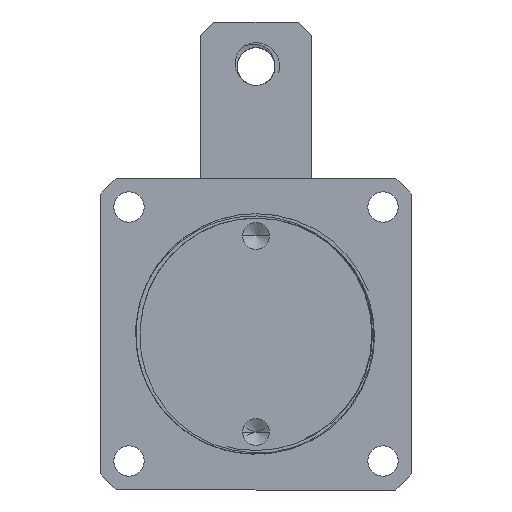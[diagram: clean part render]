
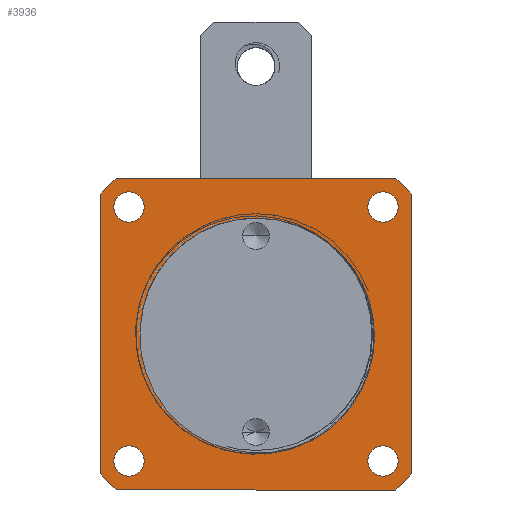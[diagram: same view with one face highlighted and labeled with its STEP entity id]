
A CAD part, left-side view. The second image highlights one B-rep face of the part: STEP entity #3936.
In plain terms, the highlighted planar face has unit normal (-1, 0, 0).
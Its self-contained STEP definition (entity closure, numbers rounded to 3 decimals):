
#2=CARTESIAN_POINT('',(0.,-28.499,-28.502));
#3=DIRECTION('',(-1.,0.,0.));
#4=DIRECTION('',(0.,-1.,0.));
#5=AXIS2_PLACEMENT_3D('',#2,#3,#4);
#7=CARTESIAN_POINT('',(0.,-28.499,-28.502));
#8=DIRECTION('',(-1.,0.,0.));
#9=DIRECTION('',(0.,1.,0.));
#10=AXIS2_PLACEMENT_3D('',#7,#8,#9);
#12=CARTESIAN_POINT('',(0.,-28.499,28.499));
#13=DIRECTION('',(-1.,0.,0.));
#14=DIRECTION('',(0.,-1.,0.));
#15=AXIS2_PLACEMENT_3D('',#12,#13,#14);
#17=CARTESIAN_POINT('',(0.,-28.499,28.499));
#18=DIRECTION('',(-1.,0.,0.));
#19=DIRECTION('',(0.,1.,0.));
#20=AXIS2_PLACEMENT_3D('',#17,#18,#19);
#22=CARTESIAN_POINT('',(0.,28.5,28.499));
#23=DIRECTION('',(-1.,0.,0.));
#24=DIRECTION('',(0.,-1.,0.));
#25=AXIS2_PLACEMENT_3D('',#22,#23,#24);
#27=CARTESIAN_POINT('',(0.,28.5,28.499));
#28=DIRECTION('',(-1.,0.,0.));
#29=DIRECTION('',(0.,1.,0.));
#30=AXIS2_PLACEMENT_3D('',#27,#28,#29);
#32=CARTESIAN_POINT('',(0.,28.5,-28.502));
#33=DIRECTION('',(-1.,0.,0.));
#34=DIRECTION('',(0.,-1.,0.));
#35=AXIS2_PLACEMENT_3D('',#32,#33,#34);
#37=CARTESIAN_POINT('',(0.,28.5,-28.502));
#38=DIRECTION('',(-1.,0.,0.));
#39=DIRECTION('',(0.,1.,0.));
#40=AXIS2_PLACEMENT_3D('',#37,#38,#39);
#42=DIRECTION('',(0.,1.,0.));
#43=VECTOR('',#42,31.366);
#44=CARTESIAN_POINT('',(0.,0.,-35.002));
#45=LINE('',#44,#43);
#46=CARTESIAN_POINT('',(0.,0.,0.));
#47=DIRECTION('',(1.,0.,0.));
#48=DIRECTION('',(0.,0.667,-0.745));
#49=AXIS2_PLACEMENT_3D('',#46,#47,#48);
#51=DIRECTION('',(0.,0.,1.));
#52=VECTOR('',#51,62.738);
#53=CARTESIAN_POINT('',(0.,35.,-31.369));
#54=LINE('',#53,#52);
#55=CARTESIAN_POINT('',(0.,0.,0.));
#56=DIRECTION('',(1.,0.,0.));
#57=DIRECTION('',(0.,0.745,0.667));
#58=AXIS2_PLACEMENT_3D('',#55,#56,#57);
#60=DIRECTION('',(0.,-1.,0.));
#61=VECTOR('',#60,62.74);
#62=CARTESIAN_POINT('',(0.,31.37,34.999));
#63=LINE('',#62,#61);
#64=CARTESIAN_POINT('',(0.,0.,0.));
#65=DIRECTION('',(1.,0.,0.));
#66=DIRECTION('',(0.,-0.667,0.745));
#67=AXIS2_PLACEMENT_3D('',#64,#65,#66);
#69=DIRECTION('',(0.,0.,-1.));
#70=VECTOR('',#69,62.74);
#71=CARTESIAN_POINT('',(0.,-34.999,31.37));
#72=LINE('',#71,#70);
#73=CARTESIAN_POINT('',(0.,0.,0.));
#74=DIRECTION('',(1.,0.,0.));
#75=DIRECTION('',(0.,-0.745,-0.667));
#76=AXIS2_PLACEMENT_3D('',#73,#74,#75);
#78=DIRECTION('',(0.,1.,0.));
#79=VECTOR('',#78,31.366);
#80=CARTESIAN_POINT('',(0.,-31.366,-35.002));
#81=LINE('',#80,#79);
#82=CARTESIAN_POINT('',(0.,-4.797,25.554));
#83=CARTESIAN_POINT('',(0.,-6.119,25.328));
#84=CARTESIAN_POINT('',(0.,-8.697,24.679));
#85=CARTESIAN_POINT('',(0.,-12.422,23.106));
#86=CARTESIAN_POINT('',(0.,-15.849,20.984));
#87=CARTESIAN_POINT('',(0.,-18.919,18.36));
#88=CARTESIAN_POINT('',(0.,-21.563,15.278));
#89=CARTESIAN_POINT('',(0.,-23.699,11.838));
#90=CARTESIAN_POINT('',(0.,-25.293,8.095));
#91=CARTESIAN_POINT('',(0.,-26.296,4.146));
#92=CARTESIAN_POINT('',(0.,-26.685,0.094));
#93=CARTESIAN_POINT('',(0.,-26.45,-4.));
#94=CARTESIAN_POINT('',(0.,-25.595,-7.994));
#95=CARTESIAN_POINT('',(0.,-24.135,-11.832));
#96=CARTESIAN_POINT('',(0.,-22.102,-15.41));
#97=CARTESIAN_POINT('',(0.,-19.552,-18.631));
#98=CARTESIAN_POINT('',(0.,-17.544,-20.499));
#99=CARTESIAN_POINT('',(0.,-16.458,-21.363));
#101=CARTESIAN_POINT('',(0.,-16.458,-21.363));
#102=CARTESIAN_POINT('',(0.,-15.352,-22.188));
#103=CARTESIAN_POINT('',(0.,-13.045,-23.648));
#104=CARTESIAN_POINT('',(0.,-9.261,-25.303));
#105=CARTESIAN_POINT('',(0.,-5.292,-26.352));
#106=CARTESIAN_POINT('',(0.,-1.218,-26.787));
#107=CARTESIAN_POINT('',(0.,2.881,-26.594));
#108=CARTESIAN_POINT('',(0.,6.875,-25.785));
#109=CARTESIAN_POINT('',(0.,10.713,-24.371));
#110=CARTESIAN_POINT('',(0.,14.274,-22.393));
#111=CARTESIAN_POINT('',(0.,17.477,-19.91));
#112=CARTESIAN_POINT('',(0.,20.277,-16.947));
#113=CARTESIAN_POINT('',(0.,22.564,-13.633));
#114=CARTESIAN_POINT('',(0.,24.333,-9.973));
#115=CARTESIAN_POINT('',(0.,25.507,-6.128));
#116=CARTESIAN_POINT('',(0.,26.081,-2.131));
#117=CARTESIAN_POINT('',(0.,26.051,0.537));
#118=CARTESIAN_POINT('',(0.,25.932,1.88));
#1455=CARTESIAN_POINT('',(0.,0.,0.));
#1456=DIRECTION('',(1.,0.,0.));
#1457=DIRECTION('',(0.,0.997,0.072));
#1458=AXIS2_PLACEMENT_3D('',#1455,#1456,#1457);
#3613=CARTESIAN_POINT('',(0.,-31.899,-28.502));
#3614=CARTESIAN_POINT('',(0.,-25.099,-28.502));
#3615=VERTEX_POINT('',#3613);
#3616=VERTEX_POINT('',#3614);
#3617=CARTESIAN_POINT('',(0.,-31.899,28.499));
#3618=CARTESIAN_POINT('',(0.,-25.099,28.499));
#3619=VERTEX_POINT('',#3617);
#3620=VERTEX_POINT('',#3618);
#3621=CARTESIAN_POINT('',(0.,25.1,28.499));
#3622=CARTESIAN_POINT('',(0.,31.9,28.499));
#3623=VERTEX_POINT('',#3621);
#3624=VERTEX_POINT('',#3622);
#3625=CARTESIAN_POINT('',(0.,25.1,-28.502));
#3626=CARTESIAN_POINT('',(0.,31.9,-28.502));
#3627=VERTEX_POINT('',#3625);
#3628=VERTEX_POINT('',#3626);
#3629=CARTESIAN_POINT('',(0.,0.,-35.002));
#3630=CARTESIAN_POINT('',(0.,31.366,-35.002));
#3631=VERTEX_POINT('',#3629);
#3632=VERTEX_POINT('',#3630);
#3633=CARTESIAN_POINT('',(0.,35.,-31.369));
#3634=VERTEX_POINT('',#3633);
#3635=CARTESIAN_POINT('',(0.,35.,31.369));
#3636=VERTEX_POINT('',#3635);
#3637=CARTESIAN_POINT('',(0.,31.37,34.999));
#3638=VERTEX_POINT('',#3637);
#3639=CARTESIAN_POINT('',(0.,-31.37,34.999));
#3640=VERTEX_POINT('',#3639);
#3641=CARTESIAN_POINT('',(0.,-34.999,31.37));
#3642=VERTEX_POINT('',#3641);
#3643=CARTESIAN_POINT('',(0.,-34.999,-31.37));
#3644=VERTEX_POINT('',#3643);
#3645=CARTESIAN_POINT('',(0.,-31.366,-35.002));
#3646=VERTEX_POINT('',#3645);
#3719=VERTEX_POINT('',#82);
#3720=VERTEX_POINT('',#99);
#3721=VERTEX_POINT('',#118);
#3879=CARTESIAN_POINT('',(0.,0.,0.));
#3880=DIRECTION('',(1.,0.,0.));
#3881=DIRECTION('',(0.,-1.,0.));
#3882=AXIS2_PLACEMENT_3D('',#3879,#3880,#3881);
#3883=PLANE('',#3882);
#3885=ORIENTED_EDGE('',*,*,#3884,.T.);
#3887=ORIENTED_EDGE('',*,*,#3886,.T.);
#3889=ORIENTED_EDGE('',*,*,#3888,.T.);
#3891=ORIENTED_EDGE('',*,*,#3890,.T.);
#3893=ORIENTED_EDGE('',*,*,#3892,.T.);
#3895=ORIENTED_EDGE('',*,*,#3894,.T.);
#3897=ORIENTED_EDGE('',*,*,#3896,.T.);
#3899=ORIENTED_EDGE('',*,*,#3898,.T.);
#3901=ORIENTED_EDGE('',*,*,#3900,.T.);
#3902=EDGE_LOOP('',(#3885,#3887,#3889,#3891,#3893,#3895,#3897,#3899,#3901));
#3903=FACE_OUTER_BOUND('',#3902,.F.);
#3905=ORIENTED_EDGE('',*,*,#3904,.T.);
#3907=ORIENTED_EDGE('',*,*,#3906,.T.);
#3908=EDGE_LOOP('',(#3905,#3907));
#3909=FACE_BOUND('',#3908,.F.);
#3911=ORIENTED_EDGE('',*,*,#3910,.T.);
#3913=ORIENTED_EDGE('',*,*,#3912,.T.);
#3914=EDGE_LOOP('',(#3911,#3913));
#3915=FACE_BOUND('',#3914,.F.);
#3917=ORIENTED_EDGE('',*,*,#3916,.T.);
#3919=ORIENTED_EDGE('',*,*,#3918,.T.);
#3920=EDGE_LOOP('',(#3917,#3919));
#3921=FACE_BOUND('',#3920,.F.);
#3923=ORIENTED_EDGE('',*,*,#3922,.T.);
#3925=ORIENTED_EDGE('',*,*,#3924,.T.);
#3926=EDGE_LOOP('',(#3923,#3925));
#3927=FACE_BOUND('',#3926,.F.);
#3929=ORIENTED_EDGE('',*,*,#3928,.F.);
#3931=ORIENTED_EDGE('',*,*,#3930,.F.);
#3933=ORIENTED_EDGE('',*,*,#3932,.F.);
#3934=EDGE_LOOP('',(#3929,#3931,#3933));
#3935=FACE_BOUND('',#3934,.F.);
#3936=ADVANCED_FACE('',(#3903,#3909,#3915,#3921,#3927,#3935),#3883,.F.);
#6=CIRCLE('',#5,3.4);
#11=CIRCLE('',#10,3.4);
#16=CIRCLE('',#15,3.4);
#21=CIRCLE('',#20,3.4);
#26=CIRCLE('',#25,3.4);
#31=CIRCLE('',#30,3.4);
#36=CIRCLE('',#35,3.4);
#41=CIRCLE('',#40,3.4);
#50=CIRCLE('',#49,47.);
#59=CIRCLE('',#58,47.);
#68=CIRCLE('',#67,47.);
#77=CIRCLE('',#76,47.);
#100=B_SPLINE_CURVE_WITH_KNOTS('',3,(#82,#83,#84,#85,#86,#87,#88,#89,#90,#91,
#92,#93,#94,#95,#96,#97,#98,#99),.UNSPECIFIED.,.F.,.F.,(4,1,1,1,1,1,1,1,1,1,1,1,
1,1,1,4),(0.,0.067,0.133,0.2,0.267,
0.333,0.4,0.467,0.533,0.6,
0.667,0.733,0.8,0.867,0.933,
1.),.UNSPECIFIED.);
#119=B_SPLINE_CURVE_WITH_KNOTS('',3,(#101,#102,#103,#104,#105,#106,#107,#108,
#109,#110,#111,#112,#113,#114,#115,#116,#117,#118),.UNSPECIFIED.,.F.,.F.,(4,1,1,
1,1,1,1,1,1,1,1,1,1,1,1,4),(0.,0.067,0.133,0.2,
0.267,0.333,0.4,0.467,0.533,
0.6,0.667,0.733,0.8,0.867,
0.933,1.),.UNSPECIFIED.);
#1459=CIRCLE('',#1458,26.);
#3884=EDGE_CURVE('',#3631,#3632,#45,.T.);
#3886=EDGE_CURVE('',#3632,#3634,#50,.T.);
#3888=EDGE_CURVE('',#3634,#3636,#54,.T.);
#3890=EDGE_CURVE('',#3636,#3638,#59,.T.);
#3892=EDGE_CURVE('',#3638,#3640,#63,.T.);
#3894=EDGE_CURVE('',#3640,#3642,#68,.T.);
#3896=EDGE_CURVE('',#3642,#3644,#72,.T.);
#3898=EDGE_CURVE('',#3644,#3646,#77,.T.);
#3900=EDGE_CURVE('',#3646,#3631,#81,.T.);
#3904=EDGE_CURVE('',#3615,#3616,#6,.T.);
#3906=EDGE_CURVE('',#3616,#3615,#11,.T.);
#3910=EDGE_CURVE('',#3619,#3620,#16,.T.);
#3912=EDGE_CURVE('',#3620,#3619,#21,.T.);
#3916=EDGE_CURVE('',#3623,#3624,#26,.T.);
#3918=EDGE_CURVE('',#3624,#3623,#31,.T.);
#3922=EDGE_CURVE('',#3627,#3628,#36,.T.);
#3924=EDGE_CURVE('',#3628,#3627,#41,.T.);
#3928=EDGE_CURVE('',#3719,#3720,#100,.T.);
#3930=EDGE_CURVE('',#3721,#3719,#1459,.T.);
#3932=EDGE_CURVE('',#3720,#3721,#119,.T.);
